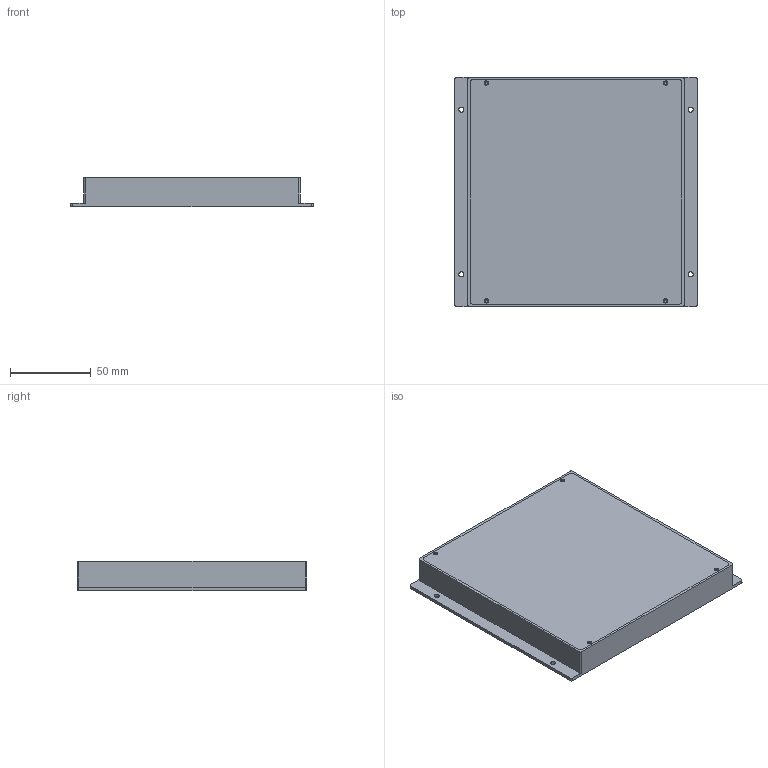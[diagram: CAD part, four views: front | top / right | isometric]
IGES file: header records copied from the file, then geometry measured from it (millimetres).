
Start section: SolidWorks IGES file using analytic representation for surfaces
Global section: file name: C:\Users\Administrator\Desktop\梓袧莉こ\掖嫖\F130130\ED\F130130.IGS; native system: SolidWorks 2022; preprocessor: SolidWorks 2022; author: Administrator; date: 220221.002224; units: millimetre
Bounding box: 150 x 142 x 18 mm (x, y, z)
Surface area: 133549 mm2 (no closed solid volume)
Topology: 0 solids, 0 shells, 96 faces, 1088 edges, 1080 vertices
Faces by surface type: revolution 64, bspline 32
